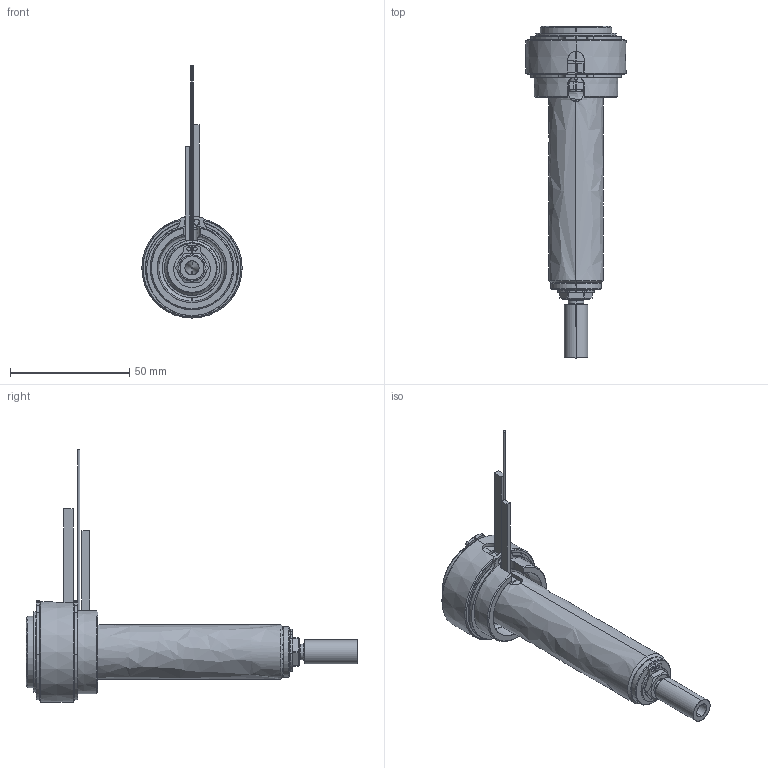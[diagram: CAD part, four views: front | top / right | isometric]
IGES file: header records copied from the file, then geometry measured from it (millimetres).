
Start section: SolidWorks IGES file using analytic representation for surfaces
Global section: file name: C:\Users\luca.EMPAD\Desktop\TEM\UGBE3502-M-A-P-5 [Ød-1.0 P-20 ØC-6.0].IGS; native system: SolidWorks 2012; preprocessor: SolidWorks 2012; author: luca; date: 120330.135518; units: millimetre
Bounding box: 42 x 139 x 105.6 mm (x, y, z)
Surface area: 28477.1 mm2 (no closed solid volume)
Topology: 0 solids, 0 shells, 179 faces, 3162 edges, 3162 vertices
Faces by surface type: revolution 114, bspline 65
